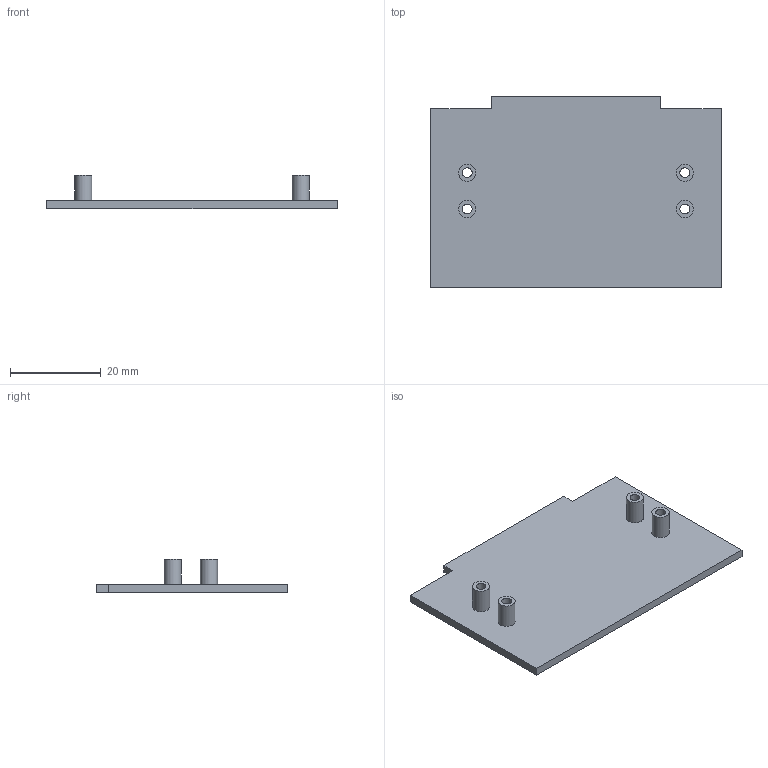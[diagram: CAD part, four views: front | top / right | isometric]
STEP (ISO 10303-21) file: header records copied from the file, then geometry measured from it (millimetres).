
FILE_DESCRIPTION(('Open CASCADE Model'),'2;1');
FILE_NAME('Open CASCADE Shape Model','2026-11-24T20:33:37',('Author'),( 'Open CASCADE'),'Open CASCADE STEP processor 7.8','Open CASCADE 7.8' ,'Unknown');
FILE_SCHEMA(('AUTOMOTIVE_DESIGN { 1 0 10303 214 1 1 1 1 }'));
Length unit declared in the file: millimetre
Products named in the file (1): Open CASCADE STEP translator 7.8 10
Bounding box: 64 x 42.3 x 7.3 mm (x, y, z)
Volume: 4869.3 mm3; surface area: 6072.4 mm2
Topology: 1 solids, 1 shells, 26 faces, 56 edges, 36 vertices
Faces by surface type: plane 14, cylinder 8, cone 4
Full cylindrical faces by diameter (mm): 2.16 x4, 3.8 x4
Entity records: 1462 total; most frequent: DIRECTION 242, CARTESIAN_POINT 231, LINE 132, VECTOR 132, ORIENTED_EDGE 112, PCURVE 112, DEFINITIONAL_REPRESENTATION 112, EDGE_CURVE 56
